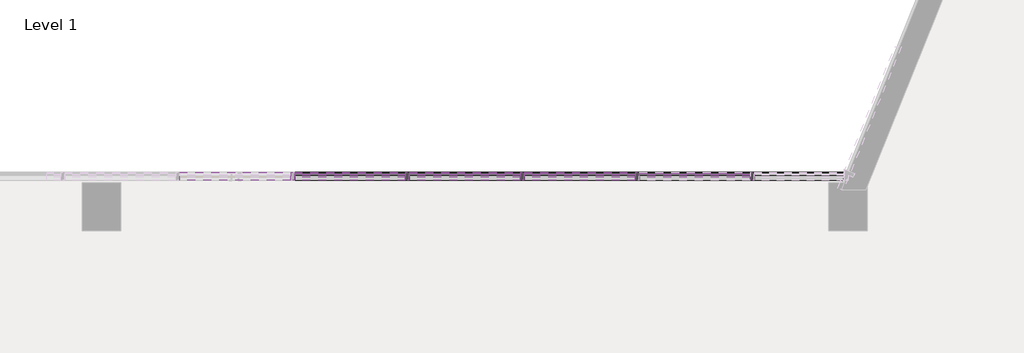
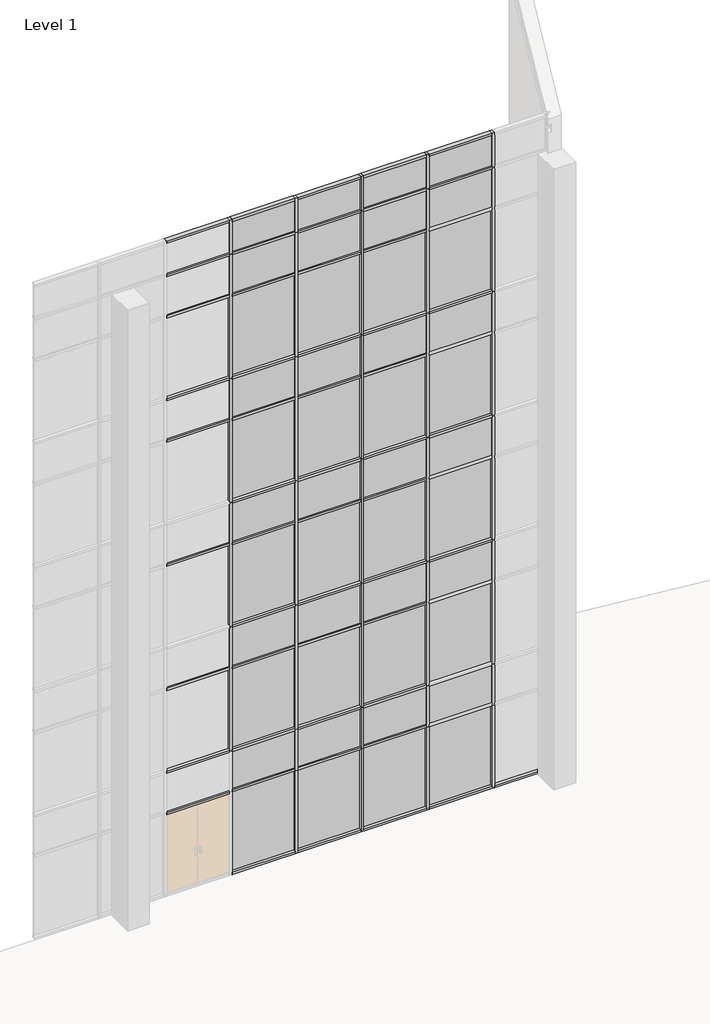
# One storey, part 14 of 23: 85 members, 44 plates.
"""IFC4 building model written with IfcOpenShell, lengths in millimetres."""

from ifc_helpers import new_model, si_unit, origin, place, context, project, spatial, transform, mapped, element, save
from components import member_2b49869a, member_f92b8aa2, member_810865a4, member_f0fea5a5, member_6d5c3e5e, member_9764dd38, member_68903c03, system_panel_glazed_14c75400, system_panel_solid_5dfe6f83, system_panel_solid_e25e2004, system_panel_solid_b7551183

model = new_model("IFC4")

# Units and contexts
model_context = context("Model", 3, world=origin())
ifc_project = project(units=[si_unit("LENGTHUNIT", "METRE", prefix="MILLI")], contexts=[model_context])

# Site, building, storey
site = spatial("IfcSite", under=ifc_project)
building = spatial("IfcBuilding", under=site)
storey = spatial("IfcBuildingStorey", under=building, Name="Level 1", Elevation=0.0)

# Members
placement = place(None, origin())
member_shape = member_2b49869a(model_context)
element("IfcMember", 1, ObjectType="Rectangular Mullion : 2.5\" x 5\" rectangular", at=placement, inside=storey, context=model_context, shape_type="MappedRepresentation", body=[
    mapped(member_shape, transform((-37926.2373649, 10017.7896508, 2438.4), x_axis=(1.0, 0.0, 0.0), y_axis=(0.0, -1.0, 0.0), z_axis=(0.0, 0.0, -1.0))),
])
element("IfcMember", 2, ObjectType="Rectangular Mullion : 2.5\" x 5\" rectangular", at=placement, inside=storey, context=model_context, shape_type="MappedRepresentation", body=[
    mapped(member_shape, transform((-39755.0373649, 10017.7896508, 2438.4), x_axis=(1.0, 0.0, 0.0), y_axis=(0.0, -1.0, 0.0), z_axis=(0.0, 0.0, -1.0))),
])
element("IfcMember", 3, ObjectType="Rectangular Mullion : 2.5\" x 5\" rectangular", at=placement, inside=storey, context=model_context, shape_type="MappedRepresentation", body=[
    mapped(member_shape, transform((-34268.6373649, 10017.7896508, 2438.4), x_axis=(1.0, 0.0, 0.0), y_axis=(0.0, -1.0, 0.0), z_axis=(0.0, 0.0, -1.0))),
])
element("IfcMember", 4, ObjectType="Rectangular Mullion : 2.5\" x 5\" rectangular", at=placement, inside=storey, context=model_context, shape_type="MappedRepresentation", body=[
    mapped(member_shape, transform((-36097.4373649, 10017.7896508, 2438.4), x_axis=(1.0, 0.0, 0.0), y_axis=(0.0, -1.0, 0.0), z_axis=(0.0, 0.0, -1.0))),
])
member_2_shape = member_f92b8aa2(model_context)
element("IfcMember", 5, ObjectType="Rectangular Mullion : 2.5\" x 5\" rectangular", at=placement, inside=storey, context=model_context, shape_type="MappedRepresentation", body=[
    mapped(member_2_shape, transform((-37926.2373649, 10017.7896508, 18288.0), x_axis=(1.0, 0.0, 0.0), y_axis=(0.0, -1.0, 0.0), z_axis=(0.0, 0.0, -1.0))),
])
element("IfcMember", 6, ObjectType="Rectangular Mullion : 2.5\" x 5\" rectangular", at=placement, inside=storey, context=model_context, shape_type="MappedRepresentation", body=[
    mapped(member_2_shape, transform((-39755.0373649, 10017.7896508, 18288.0), x_axis=(1.0, 0.0, 0.0), y_axis=(0.0, -1.0, 0.0), z_axis=(0.0, 0.0, -1.0))),
])
element("IfcMember", 7, ObjectType="Rectangular Mullion : 2.5\" x 5\" rectangular", at=placement, inside=storey, context=model_context, shape_type="MappedRepresentation", body=[
    mapped(member_2_shape, transform((-41583.8373649, 10017.7896508, 18288.0), x_axis=(1.0, 0.0, 0.0), y_axis=(0.0, -1.0, 0.0), z_axis=(0.0, 0.0, -1.0))),
])
element("IfcMember", 8, ObjectType="Rectangular Mullion : 2.5\" x 5\" rectangular", at=placement, inside=storey, context=model_context, shape_type="MappedRepresentation", body=[
    mapped(member_2_shape, transform((-34268.6373649, 10017.7896508, 18288.0), x_axis=(1.0, 0.0, 0.0), y_axis=(0.0, -1.0, 0.0), z_axis=(0.0, 0.0, -1.0))),
])
element("IfcMember", 9, ObjectType="Rectangular Mullion : 2.5\" x 5\" rectangular", at=placement, inside=storey, context=model_context, shape_type="MappedRepresentation", body=[
    mapped(member_2_shape, transform((-36097.4373649, 10017.7896508, 18288.0), x_axis=(1.0, 0.0, 0.0), y_axis=(0.0, -1.0, 0.0), z_axis=(0.0, 0.0, -1.0))),
])
member_3_shape = member_810865a4(model_context)
element("IfcMember", 10, ObjectType="Rectangular Mullion : 2.5\" x 5\" rectangular", at=placement, inside=storey, context=model_context, shape_type="MappedRepresentation", body=[
    mapped(member_3_shape, transform((-36097.4373649, 10017.7896508, 14630.4), x_axis=(1.0, 0.0, 0.0), y_axis=(0.0, -1.0, 0.0), z_axis=(0.0, 0.0, -1.0))),
])
element("IfcMember", 11, ObjectType="Rectangular Mullion : 2.5\" x 5\" rectangular", at=placement, inside=storey, context=model_context, shape_type="MappedRepresentation", body=[
    mapped(member_3_shape, transform((-36097.4373649, 10017.7896508, 10972.8), x_axis=(1.0, 0.0, 0.0), y_axis=(0.0, -1.0, 0.0), z_axis=(0.0, 0.0, -1.0))),
])
element("IfcMember", 12, ObjectType="Rectangular Mullion : 2.5\" x 5\" rectangular", at=placement, inside=storey, context=model_context, shape_type="MappedRepresentation", body=[
    mapped(member_3_shape, transform((-36097.4373649, 10017.7896508, 7315.2), x_axis=(1.0, 0.0, 0.0), y_axis=(0.0, -1.0, 0.0), z_axis=(0.0, 0.0, -1.0))),
])
element("IfcMember", 13, ObjectType="Rectangular Mullion : 2.5\" x 5\" rectangular", at=placement, inside=storey, context=model_context, shape_type="MappedRepresentation", body=[
    mapped(member_3_shape, transform((-36097.4373649, 10017.7896508, 3657.6), x_axis=(1.0, 0.0, 0.0), y_axis=(0.0, -1.0, 0.0), z_axis=(0.0, 0.0, -1.0))),
])
element("IfcMember", 14, ObjectType="Rectangular Mullion : 2.5\" x 5\" rectangular", at=placement, inside=storey, context=model_context, shape_type="MappedRepresentation", body=[
    mapped(member_3_shape, transform((-37926.2373649, 10017.7896508, 14630.4), x_axis=(1.0, 0.0, 0.0), y_axis=(0.0, -1.0, 0.0), z_axis=(0.0, 0.0, -1.0))),
])
element("IfcMember", 15, ObjectType="Rectangular Mullion : 2.5\" x 5\" rectangular", at=placement, inside=storey, context=model_context, shape_type="MappedRepresentation", body=[
    mapped(member_3_shape, transform((-37926.2373649, 10017.7896508, 10972.8), x_axis=(1.0, 0.0, 0.0), y_axis=(0.0, -1.0, 0.0), z_axis=(0.0, 0.0, -1.0))),
])
element("IfcMember", 16, ObjectType="Rectangular Mullion : 2.5\" x 5\" rectangular", at=placement, inside=storey, context=model_context, shape_type="MappedRepresentation", body=[
    mapped(member_3_shape, transform((-37926.2373649, 10017.7896508, 7315.2), x_axis=(1.0, 0.0, 0.0), y_axis=(0.0, -1.0, 0.0), z_axis=(0.0, 0.0, -1.0))),
])
element("IfcMember", 17, ObjectType="Rectangular Mullion : 2.5\" x 5\" rectangular", at=placement, inside=storey, context=model_context, shape_type="MappedRepresentation", body=[
    mapped(member_3_shape, transform((-37926.2373649, 10017.7896508, 3657.6), x_axis=(1.0, 0.0, 0.0), y_axis=(0.0, -1.0, 0.0), z_axis=(0.0, 0.0, -1.0))),
])
element("IfcMember", 18, ObjectType="Rectangular Mullion : 2.5\" x 5\" rectangular", at=placement, inside=storey, context=model_context, shape_type="MappedRepresentation", body=[
    mapped(member_3_shape, transform((-39755.0373649, 10017.7896508, 14630.4), x_axis=(1.0, 0.0, 0.0), y_axis=(0.0, -1.0, 0.0), z_axis=(0.0, 0.0, -1.0))),
])
element("IfcMember", 19, ObjectType="Rectangular Mullion : 2.5\" x 5\" rectangular", at=placement, inside=storey, context=model_context, shape_type="MappedRepresentation", body=[
    mapped(member_3_shape, transform((-39755.0373649, 10017.7896508, 10972.8), x_axis=(1.0, 0.0, 0.0), y_axis=(0.0, -1.0, 0.0), z_axis=(0.0, 0.0, -1.0))),
])
element("IfcMember", 20, ObjectType="Rectangular Mullion : 2.5\" x 5\" rectangular", at=placement, inside=storey, context=model_context, shape_type="MappedRepresentation", body=[
    mapped(member_3_shape, transform((-39755.0373649, 10017.7896508, 7315.2), x_axis=(1.0, 0.0, 0.0), y_axis=(0.0, -1.0, 0.0), z_axis=(0.0, 0.0, -1.0))),
])
element("IfcMember", 21, ObjectType="Rectangular Mullion : 2.5\" x 5\" rectangular", at=placement, inside=storey, context=model_context, shape_type="MappedRepresentation", body=[
    mapped(member_3_shape, transform((-39755.0373649, 10017.7896508, 3657.6), x_axis=(1.0, 0.0, 0.0), y_axis=(0.0, -1.0, 0.0), z_axis=(0.0, 0.0, -1.0))),
])
element("IfcMember", 22, ObjectType="Rectangular Mullion : 2.5\" x 5\" rectangular", at=placement, inside=storey, context=model_context, shape_type="MappedRepresentation", body=[
    mapped(member_3_shape, transform((-41583.8373649, 10017.7896508, 14630.4), x_axis=(1.0, 0.0, 0.0), y_axis=(0.0, -1.0, 0.0), z_axis=(0.0, 0.0, -1.0))),
])
element("IfcMember", 23, ObjectType="Rectangular Mullion : 2.5\" x 5\" rectangular", at=placement, inside=storey, context=model_context, shape_type="MappedRepresentation", body=[
    mapped(member_3_shape, transform((-41583.8373649, 10017.7896508, 10972.8), x_axis=(1.0, 0.0, 0.0), y_axis=(0.0, -1.0, 0.0), z_axis=(0.0, 0.0, -1.0))),
])
element("IfcMember", 24, ObjectType="Rectangular Mullion : 2.5\" x 5\" rectangular", at=placement, inside=storey, context=model_context, shape_type="MappedRepresentation", body=[
    mapped(member_3_shape, transform((-41583.8373649, 10017.7896508, 7315.2), x_axis=(1.0, 0.0, 0.0), y_axis=(0.0, -1.0, 0.0), z_axis=(0.0, 0.0, -1.0))),
])
element("IfcMember", 25, ObjectType="Rectangular Mullion : 2.5\" x 5\" rectangular", at=placement, inside=storey, context=model_context, shape_type="MappedRepresentation", body=[
    mapped(member_3_shape, transform((-41583.8373649, 10017.7896508, 3657.6), x_axis=(1.0, 0.0, 0.0), y_axis=(0.0, -1.0, 0.0), z_axis=(0.0, 0.0, -1.0))),
])
element("IfcMember", 26, ObjectType="Rectangular Mullion : 2.5\" x 5\" rectangular", at=placement, inside=storey, context=model_context, shape_type="MappedRepresentation", body=[
    mapped(member_3_shape, transform((-34268.6373649, 10017.7896508, 14630.4), x_axis=(1.0, 0.0, 0.0), y_axis=(0.0, -1.0, 0.0), z_axis=(0.0, 0.0, -1.0))),
])
element("IfcMember", 27, ObjectType="Rectangular Mullion : 2.5\" x 5\" rectangular", at=placement, inside=storey, context=model_context, shape_type="MappedRepresentation", body=[
    mapped(member_3_shape, transform((-34268.6373649, 10017.7896508, 10972.8), x_axis=(1.0, 0.0, 0.0), y_axis=(0.0, -1.0, 0.0), z_axis=(0.0, 0.0, -1.0))),
])
element("IfcMember", 28, ObjectType="Rectangular Mullion : 2.5\" x 5\" rectangular", at=placement, inside=storey, context=model_context, shape_type="MappedRepresentation", body=[
    mapped(member_3_shape, transform((-34268.6373649, 10017.7896508, 7315.2), x_axis=(1.0, 0.0, 0.0), y_axis=(0.0, -1.0, 0.0), z_axis=(0.0, 0.0, -1.0))),
])
element("IfcMember", 29, ObjectType="Rectangular Mullion : 2.5\" x 5\" rectangular", at=placement, inside=storey, context=model_context, shape_type="MappedRepresentation", body=[
    mapped(member_3_shape, transform((-34268.6373649, 10017.7896508, 3657.6), x_axis=(1.0, 0.0, 0.0), y_axis=(0.0, -1.0, 0.0), z_axis=(0.0, 0.0, -1.0))),
])
member_4_shape = member_f0fea5a5(model_context)
element("IfcMember", 30, ObjectType="Rectangular Mullion : 2.5\" x 5\" rectangular", at=placement, inside=storey, context=model_context, shape_type="MappedRepresentation", body=[
    mapped(member_4_shape, transform((-36097.4373649, 10017.7896508, 0.0), x_axis=(1.0, 0.0, 0.0), y_axis=(0.0, -1.0, 0.0), z_axis=(0.0, 0.0, -1.0))),
])
element("IfcMember", 31, ObjectType="Rectangular Mullion : 2.5\" x 5\" rectangular", at=placement, inside=storey, context=model_context, shape_type="MappedRepresentation", body=[
    mapped(member_4_shape, transform((-37926.2373649, 10017.7896508, 0.0), x_axis=(1.0, 0.0, 0.0), y_axis=(0.0, -1.0, 0.0), z_axis=(0.0, 0.0, -1.0))),
])
element("IfcMember", 32, ObjectType="Rectangular Mullion : 2.5\" x 5\" rectangular", at=placement, inside=storey, context=model_context, shape_type="MappedRepresentation", body=[
    mapped(member_4_shape, transform((-39755.0373649, 10017.7896508, 0.0), x_axis=(1.0, 0.0, 0.0), y_axis=(0.0, -1.0, 0.0), z_axis=(0.0, 0.0, -1.0))),
])
element("IfcMember", 33, ObjectType="Rectangular Mullion : 2.5\" x 5\" rectangular", at=placement, inside=storey, context=model_context, shape_type="MappedRepresentation", body=[
    mapped(member_4_shape, transform((-34268.6373649, 10017.7896508, 0.0), x_axis=(1.0, 0.0, 0.0), y_axis=(0.0, -1.0, 0.0), z_axis=(0.0, 0.0, -1.0))),
])
member_5_shape = member_6d5c3e5e(model_context)
element("IfcMember", 34, ObjectType="Rectangular Mullion : 2.5\" x 5\" rectangular", at=placement, inside=storey, context=model_context, shape_type="MappedRepresentation", body=[
    mapped(member_5_shape, transform((-34300.3873649, 10017.7896508, 19304.0), x_axis=(0.0, 0.0, 1.0), y_axis=(0.0, -1.0, 0.0), z_axis=(1.0, 0.0, 0.0))),
])
element("IfcMember", 35, ObjectType="Rectangular Mullion : 2.5\" x 5\" rectangular", at=placement, inside=storey, context=model_context, shape_type="MappedRepresentation", body=[
    mapped(member_5_shape, transform((-36129.1873649, 10017.7896508, 19304.0), x_axis=(0.0, 0.0, 1.0), y_axis=(0.0, -1.0, 0.0), z_axis=(1.0, 0.0, 0.0))),
])
element("IfcMember", 36, ObjectType="Rectangular Mullion : 2.5\" x 5\" rectangular", at=placement, inside=storey, context=model_context, shape_type="MappedRepresentation", body=[
    mapped(member_5_shape, transform((-37957.9873649, 10017.7896508, 19304.0), x_axis=(0.0, 0.0, 1.0), y_axis=(0.0, -1.0, 0.0), z_axis=(1.0, 0.0, 0.0))),
])
element("IfcMember", 37, ObjectType="Rectangular Mullion : 2.5\" x 5\" rectangular", at=placement, inside=storey, context=model_context, shape_type="MappedRepresentation", body=[
    mapped(member_5_shape, transform((-39786.7873649, 10017.7896508, 19304.0), x_axis=(0.0, 0.0, 1.0), y_axis=(0.0, -1.0, 0.0), z_axis=(1.0, 0.0, 0.0))),
])
element("IfcMember", 38, ObjectType="Rectangular Mullion : 2.5\" x 5\" rectangular", at=placement, inside=storey, context=model_context, shape_type="MappedRepresentation", body=[
    mapped(member_5_shape, transform((-41615.5873649, 10017.7896508, 19304.0), x_axis=(0.0, 0.0, 1.0), y_axis=(0.0, -1.0, 0.0), z_axis=(1.0, 0.0, 0.0))),
])
member_6_shape = member_9764dd38(model_context)
element("IfcMember", 39, ObjectType="Rectangular Mullion : 2.5\" x 5\" rectangular", at=placement, inside=storey, context=model_context, shape_type="MappedRepresentation", body=[
    mapped(member_6_shape, transform((-36129.1873649, 10017.7896508, 17068.8), x_axis=(0.0, 0.0, 1.0), y_axis=(0.0, -1.0, 0.0), z_axis=(1.0, 0.0, 0.0))),
])
element("IfcMember", 40, ObjectType="Rectangular Mullion : 2.5\" x 5\" rectangular", at=placement, inside=storey, context=model_context, shape_type="MappedRepresentation", body=[
    mapped(member_6_shape, transform((-37957.9873649, 10017.7896508, 17068.8), x_axis=(0.0, 0.0, 1.0), y_axis=(0.0, -1.0, 0.0), z_axis=(1.0, 0.0, 0.0))),
])
element("IfcMember", 41, ObjectType="Rectangular Mullion : 2.5\" x 5\" rectangular", at=placement, inside=storey, context=model_context, shape_type="MappedRepresentation", body=[
    mapped(member_6_shape, transform((-39786.7873649, 10017.7896508, 17068.8), x_axis=(0.0, 0.0, 1.0), y_axis=(0.0, -1.0, 0.0), z_axis=(1.0, 0.0, 0.0))),
])
element("IfcMember", 42, ObjectType="Rectangular Mullion : 2.5\" x 5\" rectangular", at=placement, inside=storey, context=model_context, shape_type="MappedRepresentation", body=[
    mapped(member_6_shape, transform((-41615.5873649, 10017.7896508, 17068.8), x_axis=(0.0, 0.0, 1.0), y_axis=(0.0, -1.0, 0.0), z_axis=(1.0, 0.0, 0.0))),
])
element("IfcMember", 43, ObjectType="Rectangular Mullion : 2.5\" x 5\" rectangular", at=placement, inside=storey, context=model_context, shape_type="MappedRepresentation", body=[
    mapped(member_6_shape, transform((-36129.1873649, 10017.7896508, 13411.2), x_axis=(0.0, 0.0, 1.0), y_axis=(0.0, -1.0, 0.0), z_axis=(1.0, 0.0, 0.0))),
])
element("IfcMember", 44, ObjectType="Rectangular Mullion : 2.5\" x 5\" rectangular", at=placement, inside=storey, context=model_context, shape_type="MappedRepresentation", body=[
    mapped(member_6_shape, transform((-37957.9873649, 10017.7896508, 13411.2), x_axis=(0.0, 0.0, 1.0), y_axis=(0.0, -1.0, 0.0), z_axis=(1.0, 0.0, 0.0))),
])
element("IfcMember", 45, ObjectType="Rectangular Mullion : 2.5\" x 5\" rectangular", at=placement, inside=storey, context=model_context, shape_type="MappedRepresentation", body=[
    mapped(member_6_shape, transform((-39786.7873649, 10017.7896508, 13411.2), x_axis=(0.0, 0.0, 1.0), y_axis=(0.0, -1.0, 0.0), z_axis=(1.0, 0.0, 0.0))),
])
element("IfcMember", 46, ObjectType="Rectangular Mullion : 2.5\" x 5\" rectangular", at=placement, inside=storey, context=model_context, shape_type="MappedRepresentation", body=[
    mapped(member_6_shape, transform((-41615.5873649, 10017.7896508, 13411.2), x_axis=(0.0, 0.0, 1.0), y_axis=(0.0, -1.0, 0.0), z_axis=(1.0, 0.0, 0.0))),
])
element("IfcMember", 47, ObjectType="Rectangular Mullion : 2.5\" x 5\" rectangular", at=placement, inside=storey, context=model_context, shape_type="MappedRepresentation", body=[
    mapped(member_6_shape, transform((-36129.1873649, 10017.7896508, 9753.6), x_axis=(0.0, 0.0, 1.0), y_axis=(0.0, -1.0, 0.0), z_axis=(1.0, 0.0, 0.0))),
])
element("IfcMember", 48, ObjectType="Rectangular Mullion : 2.5\" x 5\" rectangular", at=placement, inside=storey, context=model_context, shape_type="MappedRepresentation", body=[
    mapped(member_6_shape, transform((-37957.9873649, 10017.7896508, 9753.6), x_axis=(0.0, 0.0, 1.0), y_axis=(0.0, -1.0, 0.0), z_axis=(1.0, 0.0, 0.0))),
])
element("IfcMember", 49, ObjectType="Rectangular Mullion : 2.5\" x 5\" rectangular", at=placement, inside=storey, context=model_context, shape_type="MappedRepresentation", body=[
    mapped(member_6_shape, transform((-39786.7873649, 10017.7896508, 9753.6), x_axis=(0.0, 0.0, 1.0), y_axis=(0.0, -1.0, 0.0), z_axis=(1.0, 0.0, 0.0))),
])
element("IfcMember", 50, ObjectType="Rectangular Mullion : 2.5\" x 5\" rectangular", at=placement, inside=storey, context=model_context, shape_type="MappedRepresentation", body=[
    mapped(member_6_shape, transform((-41615.5873649, 10017.7896508, 9753.6), x_axis=(0.0, 0.0, 1.0), y_axis=(0.0, -1.0, 0.0), z_axis=(1.0, 0.0, 0.0))),
])
element("IfcMember", 51, ObjectType="Rectangular Mullion : 2.5\" x 5\" rectangular", at=placement, inside=storey, context=model_context, shape_type="MappedRepresentation", body=[
    mapped(member_6_shape, transform((-36129.1873649, 10017.7896508, 6096.0), x_axis=(0.0, 0.0, 1.0), y_axis=(0.0, -1.0, 0.0), z_axis=(1.0, 0.0, 0.0))),
])
element("IfcMember", 52, ObjectType="Rectangular Mullion : 2.5\" x 5\" rectangular", at=placement, inside=storey, context=model_context, shape_type="MappedRepresentation", body=[
    mapped(member_6_shape, transform((-37957.9873649, 10017.7896508, 6096.0), x_axis=(0.0, 0.0, 1.0), y_axis=(0.0, -1.0, 0.0), z_axis=(1.0, 0.0, 0.0))),
])
element("IfcMember", 53, ObjectType="Rectangular Mullion : 2.5\" x 5\" rectangular", at=placement, inside=storey, context=model_context, shape_type="MappedRepresentation", body=[
    mapped(member_6_shape, transform((-39786.7873649, 10017.7896508, 6096.0), x_axis=(0.0, 0.0, 1.0), y_axis=(0.0, -1.0, 0.0), z_axis=(1.0, 0.0, 0.0))),
])
element("IfcMember", 54, ObjectType="Rectangular Mullion : 2.5\" x 5\" rectangular", at=placement, inside=storey, context=model_context, shape_type="MappedRepresentation", body=[
    mapped(member_6_shape, transform((-41615.5873649, 10017.7896508, 6096.0), x_axis=(0.0, 0.0, 1.0), y_axis=(0.0, -1.0, 0.0), z_axis=(1.0, 0.0, 0.0))),
])
element("IfcMember", 55, ObjectType="Rectangular Mullion : 2.5\" x 5\" rectangular", at=placement, inside=storey, context=model_context, shape_type="MappedRepresentation", body=[
    mapped(member_6_shape, transform((-36129.1873649, 10017.7896508, 2470.15), x_axis=(0.0, 0.0, 1.0), y_axis=(0.0, -1.0, 0.0), z_axis=(1.0, 0.0, 0.0))),
])
element("IfcMember", 56, ObjectType="Rectangular Mullion : 2.5\" x 5\" rectangular", at=placement, inside=storey, context=model_context, shape_type="MappedRepresentation", body=[
    mapped(member_6_shape, transform((-37957.9873649, 10017.7896508, 2470.15), x_axis=(0.0, 0.0, 1.0), y_axis=(0.0, -1.0, 0.0), z_axis=(1.0, 0.0, 0.0))),
])
element("IfcMember", 57, ObjectType="Rectangular Mullion : 2.5\" x 5\" rectangular", at=placement, inside=storey, context=model_context, shape_type="MappedRepresentation", body=[
    mapped(member_6_shape, transform((-39786.7873649, 10017.7896508, 2470.15), x_axis=(0.0, 0.0, 1.0), y_axis=(0.0, -1.0, 0.0), z_axis=(1.0, 0.0, 0.0))),
])
member_7_shape = member_68903c03(model_context)
element("IfcMember", 58, ObjectType="Rectangular Mullion : 2.5\" x 5\" rectangular", at=placement, inside=storey, context=model_context, shape_type="MappedRepresentation", body=[
    mapped(member_7_shape, transform((-34236.8873649, 10017.7896508, 0.0), x_axis=(0.0, 0.0, -1.0), y_axis=(0.0, -1.0, 0.0), z_axis=(-1.0, 0.0, 0.0))),
])
element("IfcMember", 59, ObjectType="Rectangular Mullion : 2.5\" x 5\" rectangular", at=placement, inside=storey, context=model_context, shape_type="MappedRepresentation", body=[
    mapped(member_5_shape, transform((-36065.6873649, 10017.7896508, 0.0), x_axis=(0.0, 0.0, -1.0), y_axis=(0.0, -1.0, 0.0), z_axis=(-1.0, 0.0, 0.0))),
])
element("IfcMember", 60, ObjectType="Rectangular Mullion : 2.5\" x 5\" rectangular", at=placement, inside=storey, context=model_context, shape_type="MappedRepresentation", body=[
    mapped(member_5_shape, transform((-37894.4873649, 10017.7896508, 0.0), x_axis=(0.0, 0.0, -1.0), y_axis=(0.0, -1.0, 0.0), z_axis=(-1.0, 0.0, 0.0))),
])
element("IfcMember", 61, ObjectType="Rectangular Mullion : 2.5\" x 5\" rectangular", at=placement, inside=storey, context=model_context, shape_type="MappedRepresentation", body=[
    mapped(member_5_shape, transform((-39723.2873649, 10017.7896508, 0.0), x_axis=(0.0, 0.0, -1.0), y_axis=(0.0, -1.0, 0.0), z_axis=(-1.0, 0.0, 0.0))),
])
element("IfcMember", 62, ObjectType="Rectangular Mullion : 2.5\" x 5\" rectangular", at=placement, inside=storey, context=model_context, shape_type="MappedRepresentation", body=[
    mapped(member_5_shape, transform((-41552.0873649, 10017.7896508, 0.0), x_axis=(0.0, 0.0, -1.0), y_axis=(0.0, -1.0, 0.0), z_axis=(-1.0, 0.0, 0.0))),
])
element("IfcMember", 63, ObjectType="Rectangular Mullion : 2.5\" x 5\" rectangular", at=placement, inside=storey, context=model_context, shape_type="MappedRepresentation", body=[
    mapped(member_6_shape, transform((-34300.3873649, 10017.7896508, 10972.8), x_axis=(0.0, 0.0, 1.0), y_axis=(0.0, -1.0, 0.0), z_axis=(1.0, 0.0, 0.0))),
])
element("IfcMember", 64, ObjectType="Rectangular Mullion : 2.5\" x 5\" rectangular", at=placement, inside=storey, context=model_context, shape_type="MappedRepresentation", body=[
    mapped(member_6_shape, transform((-36129.1873649, 10017.7896508, 10972.8), x_axis=(0.0, 0.0, 1.0), y_axis=(0.0, -1.0, 0.0), z_axis=(1.0, 0.0, 0.0))),
])
element("IfcMember", 65, ObjectType="Rectangular Mullion : 2.5\" x 5\" rectangular", at=placement, inside=storey, context=model_context, shape_type="MappedRepresentation", body=[
    mapped(member_6_shape, transform((-37957.9873649, 10017.7896508, 10972.8), x_axis=(0.0, 0.0, 1.0), y_axis=(0.0, -1.0, 0.0), z_axis=(1.0, 0.0, 0.0))),
])
element("IfcMember", 66, ObjectType="Rectangular Mullion : 2.5\" x 5\" rectangular", at=placement, inside=storey, context=model_context, shape_type="MappedRepresentation", body=[
    mapped(member_6_shape, transform((-39786.7873649, 10017.7896508, 10972.8), x_axis=(0.0, 0.0, 1.0), y_axis=(0.0, -1.0, 0.0), z_axis=(1.0, 0.0, 0.0))),
])
element("IfcMember", 67, ObjectType="Rectangular Mullion : 2.5\" x 5\" rectangular", at=placement, inside=storey, context=model_context, shape_type="MappedRepresentation", body=[
    mapped(member_6_shape, transform((-36129.1873649, 10017.7896508, 7315.2), x_axis=(0.0, 0.0, 1.0), y_axis=(0.0, -1.0, 0.0), z_axis=(1.0, 0.0, 0.0))),
])
element("IfcMember", 68, ObjectType="Rectangular Mullion : 2.5\" x 5\" rectangular", at=placement, inside=storey, context=model_context, shape_type="MappedRepresentation", body=[
    mapped(member_6_shape, transform((-37957.9873649, 10017.7896508, 7315.2), x_axis=(0.0, 0.0, 1.0), y_axis=(0.0, -1.0, 0.0), z_axis=(1.0, 0.0, 0.0))),
])
element("IfcMember", 69, ObjectType="Rectangular Mullion : 2.5\" x 5\" rectangular", at=placement, inside=storey, context=model_context, shape_type="MappedRepresentation", body=[
    mapped(member_6_shape, transform((-39786.7873649, 10017.7896508, 7315.2), x_axis=(0.0, 0.0, 1.0), y_axis=(0.0, -1.0, 0.0), z_axis=(1.0, 0.0, 0.0))),
])
element("IfcMember", 70, ObjectType="Rectangular Mullion : 2.5\" x 5\" rectangular", at=placement, inside=storey, context=model_context, shape_type="MappedRepresentation", body=[
    mapped(member_6_shape, transform((-34300.3873649, 10017.7896508, 7315.2), x_axis=(0.0, 0.0, 1.0), y_axis=(0.0, -1.0, 0.0), z_axis=(1.0, 0.0, 0.0))),
])
element("IfcMember", 71, ObjectType="Rectangular Mullion : 2.5\" x 5\" rectangular", at=placement, inside=storey, context=model_context, shape_type="MappedRepresentation", body=[
    mapped(member_6_shape, transform((-34300.3873649, 10017.7896508, 18288.0), x_axis=(0.0, 0.0, 1.0), y_axis=(0.0, -1.0, 0.0), z_axis=(1.0, 0.0, 0.0))),
])
element("IfcMember", 72, ObjectType="Rectangular Mullion : 2.5\" x 5\" rectangular", at=placement, inside=storey, context=model_context, shape_type="MappedRepresentation", body=[
    mapped(member_6_shape, transform((-36129.1873649, 10017.7896508, 18288.0), x_axis=(0.0, 0.0, 1.0), y_axis=(0.0, -1.0, 0.0), z_axis=(1.0, 0.0, 0.0))),
])
element("IfcMember", 73, ObjectType="Rectangular Mullion : 2.5\" x 5\" rectangular", at=placement, inside=storey, context=model_context, shape_type="MappedRepresentation", body=[
    mapped(member_6_shape, transform((-37957.9873649, 10017.7896508, 18288.0), x_axis=(0.0, 0.0, 1.0), y_axis=(0.0, -1.0, 0.0), z_axis=(1.0, 0.0, 0.0))),
])
element("IfcMember", 74, ObjectType="Rectangular Mullion : 2.5\" x 5\" rectangular", at=placement, inside=storey, context=model_context, shape_type="MappedRepresentation", body=[
    mapped(member_6_shape, transform((-39786.7873649, 10017.7896508, 18288.0), x_axis=(0.0, 0.0, 1.0), y_axis=(0.0, -1.0, 0.0), z_axis=(1.0, 0.0, 0.0))),
])
element("IfcMember", 75, ObjectType="Rectangular Mullion : 2.5\" x 5\" rectangular", at=placement, inside=storey, context=model_context, shape_type="MappedRepresentation", body=[
    mapped(member_6_shape, transform((-41615.5873649, 10017.7896508, 18288.0), x_axis=(0.0, 0.0, 1.0), y_axis=(0.0, -1.0, 0.0), z_axis=(1.0, 0.0, 0.0))),
])
element("IfcMember", 76, ObjectType="Rectangular Mullion : 2.5\" x 5\" rectangular", at=placement, inside=storey, context=model_context, shape_type="MappedRepresentation", body=[
    mapped(member_6_shape, transform((-34300.3873649, 10017.7896508, 14630.4), x_axis=(0.0, 0.0, 1.0), y_axis=(0.0, -1.0, 0.0), z_axis=(1.0, 0.0, 0.0))),
])
element("IfcMember", 77, ObjectType="Rectangular Mullion : 2.5\" x 5\" rectangular", at=placement, inside=storey, context=model_context, shape_type="MappedRepresentation", body=[
    mapped(member_6_shape, transform((-36129.1873649, 10017.7896508, 14630.4), x_axis=(0.0, 0.0, 1.0), y_axis=(0.0, -1.0, 0.0), z_axis=(1.0, 0.0, 0.0))),
])
element("IfcMember", 78, ObjectType="Rectangular Mullion : 2.5\" x 5\" rectangular", at=placement, inside=storey, context=model_context, shape_type="MappedRepresentation", body=[
    mapped(member_6_shape, transform((-37957.9873649, 10017.7896508, 14630.4), x_axis=(0.0, 0.0, 1.0), y_axis=(0.0, -1.0, 0.0), z_axis=(1.0, 0.0, 0.0))),
])
element("IfcMember", 79, ObjectType="Rectangular Mullion : 2.5\" x 5\" rectangular", at=placement, inside=storey, context=model_context, shape_type="MappedRepresentation", body=[
    mapped(member_6_shape, transform((-39786.7873649, 10017.7896508, 14630.4), x_axis=(0.0, 0.0, 1.0), y_axis=(0.0, -1.0, 0.0), z_axis=(1.0, 0.0, 0.0))),
])
element("IfcMember", 80, ObjectType="Rectangular Mullion : 2.5\" x 5\" rectangular", at=placement, inside=storey, context=model_context, shape_type="MappedRepresentation", body=[
    mapped(member_6_shape, transform((-41615.5873649, 10017.7896508, 14630.4), x_axis=(0.0, 0.0, 1.0), y_axis=(0.0, -1.0, 0.0), z_axis=(1.0, 0.0, 0.0))),
])
element("IfcMember", 81, ObjectType="Rectangular Mullion : 2.5\" x 5\" rectangular", at=placement, inside=storey, context=model_context, shape_type="MappedRepresentation", body=[
    mapped(member_6_shape, transform((-36129.1873649, 10017.7896508, 3657.6), x_axis=(0.0, 0.0, 1.0), y_axis=(0.0, -1.0, 0.0), z_axis=(1.0, 0.0, 0.0))),
])
element("IfcMember", 82, ObjectType="Rectangular Mullion : 2.5\" x 5\" rectangular", at=placement, inside=storey, context=model_context, shape_type="MappedRepresentation", body=[
    mapped(member_6_shape, transform((-37957.9873649, 10017.7896508, 3657.6), x_axis=(0.0, 0.0, 1.0), y_axis=(0.0, -1.0, 0.0), z_axis=(1.0, 0.0, 0.0))),
])
element("IfcMember", 83, ObjectType="Rectangular Mullion : 2.5\" x 5\" rectangular", at=placement, inside=storey, context=model_context, shape_type="MappedRepresentation", body=[
    mapped(member_6_shape, transform((-39786.7873649, 10017.7896508, 3657.6), x_axis=(0.0, 0.0, 1.0), y_axis=(0.0, -1.0, 0.0), z_axis=(1.0, 0.0, 0.0))),
])
element("IfcMember", 84, ObjectType="Rectangular Mullion : 2.5\" x 5\" rectangular", at=placement, inside=storey, context=model_context, shape_type="MappedRepresentation", body=[
    mapped(member_6_shape, transform((-41615.5873649, 10017.7896508, 3657.6), x_axis=(0.0, 0.0, 1.0), y_axis=(0.0, -1.0, 0.0), z_axis=(1.0, 0.0, 0.0))),
])
element("IfcMember", 85, ObjectType="Rectangular Mullion : 2.5\" x 5\" rectangular", at=placement, inside=storey, context=model_context, shape_type="MappedRepresentation", body=[
    mapped(member_6_shape, transform((-41615.5873649, 10017.7896508, 2438.4), x_axis=(0.0, 0.0, 1.0), y_axis=(0.0, -1.0, 0.0), z_axis=(1.0, 0.0, 0.0))),
])

# Plates
system_panel_glazed_shape = system_panel_glazed_14c75400(model_context)
element("IfcPlate", 86, ObjectType="System Panel : Glazed", at=placement, inside=storey, context=model_context, shape_type="MappedRepresentation", body=[
    mapped(system_panel_glazed_shape, transform((-35183.0373649, 10017.7896508, 14662.15), x_axis=(1.0, 0.0, 0.0), y_axis=(0.0, 1.0, 0.0), z_axis=(0.0, 0.0, 1.0))),
])
element("IfcPlate", 87, ObjectType="System Panel : Glazed", at=placement, inside=storey, context=model_context, shape_type="MappedRepresentation", body=[
    mapped(system_panel_glazed_shape, transform((-37011.8373649, 10017.7896508, 14662.15), x_axis=(1.0, 0.0, 0.0), y_axis=(0.0, 1.0, 0.0), z_axis=(0.0, 0.0, 1.0))),
])
element("IfcPlate", 88, ObjectType="System Panel : Glazed", at=placement, inside=storey, context=model_context, shape_type="MappedRepresentation", body=[
    mapped(system_panel_glazed_shape, transform((-38840.6373649, 10017.7896508, 14662.15), x_axis=(1.0, 0.0, 0.0), y_axis=(0.0, 1.0, 0.0), z_axis=(0.0, 0.0, 1.0))),
])
element("IfcPlate", 89, ObjectType="System Panel : Glazed", at=placement, inside=storey, context=model_context, shape_type="MappedRepresentation", body=[
    mapped(system_panel_glazed_shape, transform((-40669.4373649, 10017.7896508, 14662.15), x_axis=(1.0, 0.0, 0.0), y_axis=(0.0, 1.0, 0.0), z_axis=(0.0, 0.0, 1.0))),
])
element("IfcPlate", 90, ObjectType="System Panel : Glazed", at=placement, inside=storey, context=model_context, shape_type="MappedRepresentation", body=[
    mapped(system_panel_glazed_shape, transform((-35183.0373649, 10017.7896508, 11004.55), x_axis=(1.0, 0.0, 0.0), y_axis=(0.0, 1.0, 0.0), z_axis=(0.0, 0.0, 1.0))),
])
element("IfcPlate", 91, ObjectType="System Panel : Glazed", at=placement, inside=storey, context=model_context, shape_type="MappedRepresentation", body=[
    mapped(system_panel_glazed_shape, transform((-37011.8373649, 10017.7896508, 11004.55), x_axis=(1.0, 0.0, 0.0), y_axis=(0.0, 1.0, 0.0), z_axis=(0.0, 0.0, 1.0))),
])
element("IfcPlate", 92, ObjectType="System Panel : Glazed", at=placement, inside=storey, context=model_context, shape_type="MappedRepresentation", body=[
    mapped(system_panel_glazed_shape, transform((-38840.6373649, 10017.7896508, 11004.55), x_axis=(1.0, 0.0, 0.0), y_axis=(0.0, 1.0, 0.0), z_axis=(0.0, 0.0, 1.0))),
])
element("IfcPlate", 93, ObjectType="System Panel : Glazed", at=placement, inside=storey, context=model_context, shape_type="MappedRepresentation", body=[
    mapped(system_panel_glazed_shape, transform((-40669.4373649, 10017.7896508, 11004.55), x_axis=(1.0, 0.0, 0.0), y_axis=(0.0, 1.0, 0.0), z_axis=(0.0, 0.0, 1.0))),
])
element("IfcPlate", 94, ObjectType="System Panel : Glazed", at=placement, inside=storey, context=model_context, shape_type="MappedRepresentation", body=[
    mapped(system_panel_glazed_shape, transform((-35183.0373649, 10017.7896508, 7346.95), x_axis=(1.0, 0.0, 0.0), y_axis=(0.0, 1.0, 0.0), z_axis=(0.0, 0.0, 1.0))),
])
element("IfcPlate", 95, ObjectType="System Panel : Glazed", at=placement, inside=storey, context=model_context, shape_type="MappedRepresentation", body=[
    mapped(system_panel_glazed_shape, transform((-37011.8373649, 10017.7896508, 7346.95), x_axis=(1.0, 0.0, 0.0), y_axis=(0.0, 1.0, 0.0), z_axis=(0.0, 0.0, 1.0))),
])
element("IfcPlate", 96, ObjectType="System Panel : Glazed", at=placement, inside=storey, context=model_context, shape_type="MappedRepresentation", body=[
    mapped(system_panel_glazed_shape, transform((-38840.6373649, 10017.7896508, 7346.95), x_axis=(1.0, 0.0, 0.0), y_axis=(0.0, 1.0, 0.0), z_axis=(0.0, 0.0, 1.0))),
])
element("IfcPlate", 97, ObjectType="System Panel : Glazed", at=placement, inside=storey, context=model_context, shape_type="MappedRepresentation", body=[
    mapped(system_panel_glazed_shape, transform((-40669.4373649, 10017.7896508, 7346.95), x_axis=(1.0, 0.0, 0.0), y_axis=(0.0, 1.0, 0.0), z_axis=(0.0, 0.0, 1.0))),
])
element("IfcPlate", 98, ObjectType="System Panel : Glazed", at=placement, inside=storey, context=model_context, shape_type="MappedRepresentation", body=[
    mapped(system_panel_glazed_shape, transform((-35183.0373649, 10017.7896508, 3689.35), x_axis=(1.0, 0.0, 0.0), y_axis=(0.0, 1.0, 0.0), z_axis=(0.0, 0.0, 1.0))),
])
element("IfcPlate", 99, ObjectType="System Panel : Glazed", at=placement, inside=storey, context=model_context, shape_type="MappedRepresentation", body=[
    mapped(system_panel_glazed_shape, transform((-37011.8373649, 10017.7896508, 3689.35), x_axis=(1.0, 0.0, 0.0), y_axis=(0.0, 1.0, 0.0), z_axis=(0.0, 0.0, 1.0))),
])
element("IfcPlate", 100, ObjectType="System Panel : Glazed", at=placement, inside=storey, context=model_context, shape_type="MappedRepresentation", body=[
    mapped(system_panel_glazed_shape, transform((-38840.6373649, 10017.7896508, 3689.35), x_axis=(1.0, 0.0, 0.0), y_axis=(0.0, 1.0, 0.0), z_axis=(0.0, 0.0, 1.0))),
])
element("IfcPlate", 101, ObjectType="System Panel : Glazed", at=placement, inside=storey, context=model_context, shape_type="MappedRepresentation", body=[
    mapped(system_panel_glazed_shape, transform((-40669.4373649, 10017.7896508, 3689.35), x_axis=(1.0, 0.0, 0.0), y_axis=(0.0, 1.0, 0.0), z_axis=(0.0, 0.0, 1.0))),
])
element("IfcPlate", 102, ObjectType="System Panel : Glazed", at=placement, inside=storey, context=model_context, shape_type="MappedRepresentation", body=[
    mapped(system_panel_glazed_shape, transform((-35183.0373649, 10017.7896508, 63.5), x_axis=(1.0, 0.0, 0.0), y_axis=(0.0, 1.0, 0.0), z_axis=(0.0, 0.0, 1.0))),
])
element("IfcPlate", 103, ObjectType="System Panel : Glazed", at=placement, inside=storey, context=model_context, shape_type="MappedRepresentation", body=[
    mapped(system_panel_glazed_shape, transform((-37011.8373649, 10017.7896508, 63.5), x_axis=(1.0, 0.0, 0.0), y_axis=(0.0, 1.0, 0.0), z_axis=(0.0, 0.0, 1.0))),
])
element("IfcPlate", 104, ObjectType="System Panel : Glazed", at=placement, inside=storey, context=model_context, shape_type="MappedRepresentation", body=[
    mapped(system_panel_glazed_shape, transform((-38840.6373649, 10017.7896508, 63.5), x_axis=(1.0, 0.0, 0.0), y_axis=(0.0, 1.0, 0.0), z_axis=(0.0, 0.0, 1.0))),
])
element("IfcPlate", 105, ObjectType="System Panel : Glazed", at=placement, inside=storey, context=model_context, shape_type="MappedRepresentation", body=[
    mapped(system_panel_glazed_shape, transform((-40669.4373649, 10017.7896508, 63.5), x_axis=(1.0, 0.0, 0.0), y_axis=(0.0, 1.0, 0.0), z_axis=(0.0, 0.0, 1.0))),
])
system_panel_solid_shape = system_panel_solid_5dfe6f83(model_context)
element("IfcPlate", 106, ObjectType="System Panel : Solid", at=placement, inside=storey, context=model_context, shape_type="MappedRepresentation", body=[
    mapped(system_panel_solid_shape, transform((-40669.4373649, 10017.7896508, 18319.75), x_axis=(1.0, 0.0, 0.0), y_axis=(0.0, 1.0, 0.0), z_axis=(0.0, 0.0, 1.0))),
])
element("IfcPlate", 107, ObjectType="System Panel : Solid", at=placement, inside=storey, context=model_context, shape_type="MappedRepresentation", body=[
    mapped(system_panel_solid_shape, transform((-38840.6373649, 10017.7896508, 18319.75), x_axis=(1.0, 0.0, 0.0), y_axis=(0.0, 1.0, 0.0), z_axis=(0.0, 0.0, 1.0))),
])
element("IfcPlate", 108, ObjectType="System Panel : Solid", at=placement, inside=storey, context=model_context, shape_type="MappedRepresentation", body=[
    mapped(system_panel_solid_shape, transform((-37011.8373649, 10017.7896508, 18319.75), x_axis=(1.0, 0.0, 0.0), y_axis=(0.0, 1.0, 0.0), z_axis=(0.0, 0.0, 1.0))),
])
element("IfcPlate", 109, ObjectType="System Panel : Solid", at=placement, inside=storey, context=model_context, shape_type="MappedRepresentation", body=[
    mapped(system_panel_solid_shape, transform((-35183.0373649, 10017.7896508, 18319.75), x_axis=(1.0, 0.0, 0.0), y_axis=(0.0, 1.0, 0.0), z_axis=(0.0, 0.0, 1.0))),
])
system_panel_solid_2_shape = system_panel_solid_e25e2004(model_context)
element("IfcPlate", 110, ObjectType="System Panel : Solid", at=placement, inside=storey, context=model_context, shape_type="MappedRepresentation", body=[
    mapped(system_panel_solid_2_shape, transform((-35183.0373649, 10017.7896508, 17100.55), x_axis=(1.0, 0.0, 0.0), y_axis=(0.0, 1.0, 0.0), z_axis=(0.0, 0.0, 1.0))),
])
element("IfcPlate", 111, ObjectType="System Panel : Solid", at=placement, inside=storey, context=model_context, shape_type="MappedRepresentation", body=[
    mapped(system_panel_solid_2_shape, transform((-37011.8373649, 10017.7896508, 17100.55), x_axis=(1.0, 0.0, 0.0), y_axis=(0.0, 1.0, 0.0), z_axis=(0.0, 0.0, 1.0))),
])
element("IfcPlate", 112, ObjectType="System Panel : Solid", at=placement, inside=storey, context=model_context, shape_type="MappedRepresentation", body=[
    mapped(system_panel_solid_2_shape, transform((-38840.6373649, 10017.7896508, 17100.55), x_axis=(1.0, 0.0, 0.0), y_axis=(0.0, 1.0, 0.0), z_axis=(0.0, 0.0, 1.0))),
])
element("IfcPlate", 113, ObjectType="System Panel : Solid", at=placement, inside=storey, context=model_context, shape_type="MappedRepresentation", body=[
    mapped(system_panel_solid_2_shape, transform((-40669.4373649, 10017.7896508, 17100.55), x_axis=(1.0, 0.0, 0.0), y_axis=(0.0, 1.0, 0.0), z_axis=(0.0, 0.0, 1.0))),
])
element("IfcPlate", 114, ObjectType="System Panel : Solid", at=placement, inside=storey, context=model_context, shape_type="MappedRepresentation", body=[
    mapped(system_panel_solid_2_shape, transform((-35183.0373649, 10017.7896508, 13442.95), x_axis=(1.0, 0.0, 0.0), y_axis=(0.0, 1.0, 0.0), z_axis=(0.0, 0.0, 1.0))),
])
element("IfcPlate", 115, ObjectType="System Panel : Solid", at=placement, inside=storey, context=model_context, shape_type="MappedRepresentation", body=[
    mapped(system_panel_solid_2_shape, transform((-37011.8373649, 10017.7896508, 13442.95), x_axis=(1.0, 0.0, 0.0), y_axis=(0.0, 1.0, 0.0), z_axis=(0.0, 0.0, 1.0))),
])
element("IfcPlate", 116, ObjectType="System Panel : Solid", at=placement, inside=storey, context=model_context, shape_type="MappedRepresentation", body=[
    mapped(system_panel_solid_2_shape, transform((-38840.6373649, 10017.7896508, 13442.95), x_axis=(1.0, 0.0, 0.0), y_axis=(0.0, 1.0, 0.0), z_axis=(0.0, 0.0, 1.0))),
])
element("IfcPlate", 117, ObjectType="System Panel : Solid", at=placement, inside=storey, context=model_context, shape_type="MappedRepresentation", body=[
    mapped(system_panel_solid_2_shape, transform((-40669.4373649, 10017.7896508, 13442.95), x_axis=(1.0, 0.0, 0.0), y_axis=(0.0, 1.0, 0.0), z_axis=(0.0, 0.0, 1.0))),
])
element("IfcPlate", 118, ObjectType="System Panel : Solid", at=placement, inside=storey, context=model_context, shape_type="MappedRepresentation", body=[
    mapped(system_panel_solid_2_shape, transform((-35183.0373649, 10017.7896508, 9785.35), x_axis=(1.0, 0.0, 0.0), y_axis=(0.0, 1.0, 0.0), z_axis=(0.0, 0.0, 1.0))),
])
element("IfcPlate", 119, ObjectType="System Panel : Solid", at=placement, inside=storey, context=model_context, shape_type="MappedRepresentation", body=[
    mapped(system_panel_solid_2_shape, transform((-37011.8373649, 10017.7896508, 9785.35), x_axis=(1.0, 0.0, 0.0), y_axis=(0.0, 1.0, 0.0), z_axis=(0.0, 0.0, 1.0))),
])
element("IfcPlate", 120, ObjectType="System Panel : Solid", at=placement, inside=storey, context=model_context, shape_type="MappedRepresentation", body=[
    mapped(system_panel_solid_2_shape, transform((-38840.6373649, 10017.7896508, 9785.35), x_axis=(1.0, 0.0, 0.0), y_axis=(0.0, 1.0, 0.0), z_axis=(0.0, 0.0, 1.0))),
])
element("IfcPlate", 121, ObjectType="System Panel : Solid", at=placement, inside=storey, context=model_context, shape_type="MappedRepresentation", body=[
    mapped(system_panel_solid_2_shape, transform((-40669.4373649, 10017.7896508, 9785.35), x_axis=(1.0, 0.0, 0.0), y_axis=(0.0, 1.0, 0.0), z_axis=(0.0, 0.0, 1.0))),
])
element("IfcPlate", 122, ObjectType="System Panel : Solid", at=placement, inside=storey, context=model_context, shape_type="MappedRepresentation", body=[
    mapped(system_panel_solid_2_shape, transform((-35183.0373649, 10017.7896508, 6127.75), x_axis=(1.0, 0.0, 0.0), y_axis=(0.0, 1.0, 0.0), z_axis=(0.0, 0.0, 1.0))),
])
element("IfcPlate", 123, ObjectType="System Panel : Solid", at=placement, inside=storey, context=model_context, shape_type="MappedRepresentation", body=[
    mapped(system_panel_solid_2_shape, transform((-37011.8373649, 10017.7896508, 6127.75), x_axis=(1.0, 0.0, 0.0), y_axis=(0.0, 1.0, 0.0), z_axis=(0.0, 0.0, 1.0))),
])
element("IfcPlate", 124, ObjectType="System Panel : Solid", at=placement, inside=storey, context=model_context, shape_type="MappedRepresentation", body=[
    mapped(system_panel_solid_2_shape, transform((-38840.6373649, 10017.7896508, 6127.75), x_axis=(1.0, 0.0, 0.0), y_axis=(0.0, 1.0, 0.0), z_axis=(0.0, 0.0, 1.0))),
])
element("IfcPlate", 125, ObjectType="System Panel : Solid", at=placement, inside=storey, context=model_context, shape_type="MappedRepresentation", body=[
    mapped(system_panel_solid_2_shape, transform((-40669.4373649, 10017.7896508, 6127.75), x_axis=(1.0, 0.0, 0.0), y_axis=(0.0, 1.0, 0.0), z_axis=(0.0, 0.0, 1.0))),
])
system_panel_solid_3_shape = system_panel_solid_b7551183(model_context)
element("IfcPlate", 126, ObjectType="System Panel : Solid", at=placement, inside=storey, context=model_context, shape_type="MappedRepresentation", body=[
    mapped(system_panel_solid_3_shape, transform((-35183.0373649, 10017.7896508, 2501.9), x_axis=(1.0, 0.0, 0.0), y_axis=(0.0, 1.0, 0.0), z_axis=(0.0, 0.0, 1.0))),
])
element("IfcPlate", 127, ObjectType="System Panel : Solid", at=placement, inside=storey, context=model_context, shape_type="MappedRepresentation", body=[
    mapped(system_panel_solid_3_shape, transform((-37011.8373649, 10017.7896508, 2501.9), x_axis=(1.0, 0.0, 0.0), y_axis=(0.0, 1.0, 0.0), z_axis=(0.0, 0.0, 1.0))),
])
element("IfcPlate", 128, ObjectType="System Panel : Solid", at=placement, inside=storey, context=model_context, shape_type="MappedRepresentation", body=[
    mapped(system_panel_solid_3_shape, transform((-38840.6373649, 10017.7896508, 2501.9), x_axis=(1.0, 0.0, 0.0), y_axis=(0.0, 1.0, 0.0), z_axis=(0.0, 0.0, 1.0))),
])
element("IfcPlate", 129, ObjectType="System Panel : Solid", at=placement, inside=storey, context=model_context, shape_type="MappedRepresentation", body=[
    mapped(system_panel_solid_3_shape, transform((-40669.4373649, 10017.7896508, 2501.9), x_axis=(1.0, 0.0, 0.0), y_axis=(0.0, 1.0, 0.0), z_axis=(0.0, 0.0, 1.0))),
])

save(model, "model.ifc")
